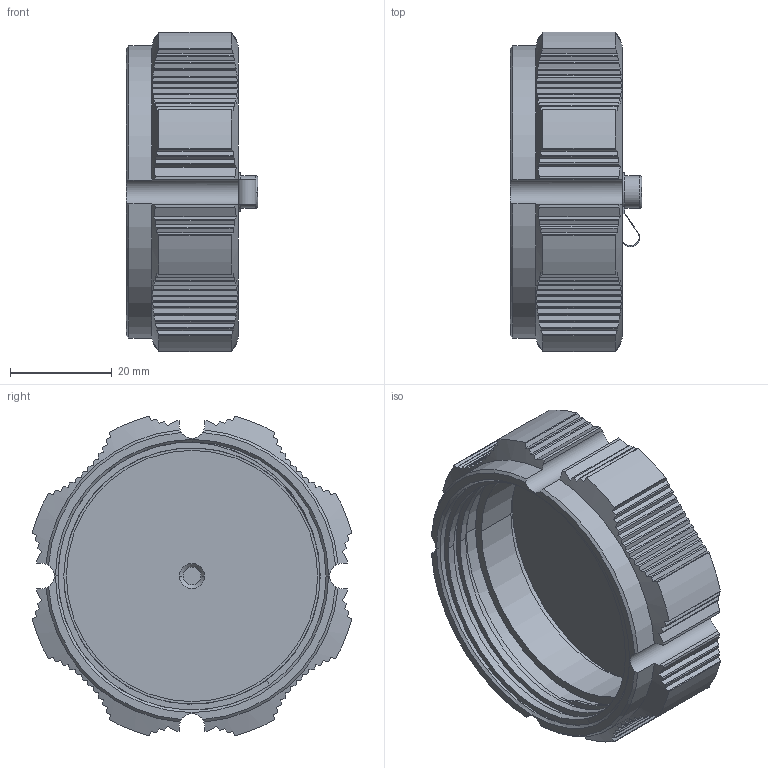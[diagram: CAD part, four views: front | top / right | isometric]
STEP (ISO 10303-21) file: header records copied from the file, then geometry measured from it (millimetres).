
FILE_DESCRIPTION((''),'2;1');
FILE_NAME('ASM0001_ASM','2020-06-05T',('Administrator'),(''),'CREO PARAMETRIC BY PTC INC, 2016130','CREO PARAMETRIC BY PTC INC, 2016130','');
FILE_SCHEMA(('CONFIG_CONTROL_DESIGN'));
Length unit declared in the file: millimetre
Products named in the file (1): ASM0001_ASM
Bounding box: 25.8 x 62.74 x 62.74 mm (x, y, z)
Volume: 21436.7 mm3; surface area: 15774.7 mm2
Topology: 1 solids, 1 shells, 595 faces, 1726 edges, 1156 vertices
Faces by surface type: plane 454, cylinder 120, cone 16, bspline 3, torus 2
Entity records: 21335 total; most frequent: CARTESIAN_POINT 6410, ORIENTED_EDGE 3452, DIRECTION 2557, EDGE_CURVE 1726, VERTEX_POINT 1156, VECTOR 1107, LINE 1107, AXIS2_PLACEMENT_3D 725
